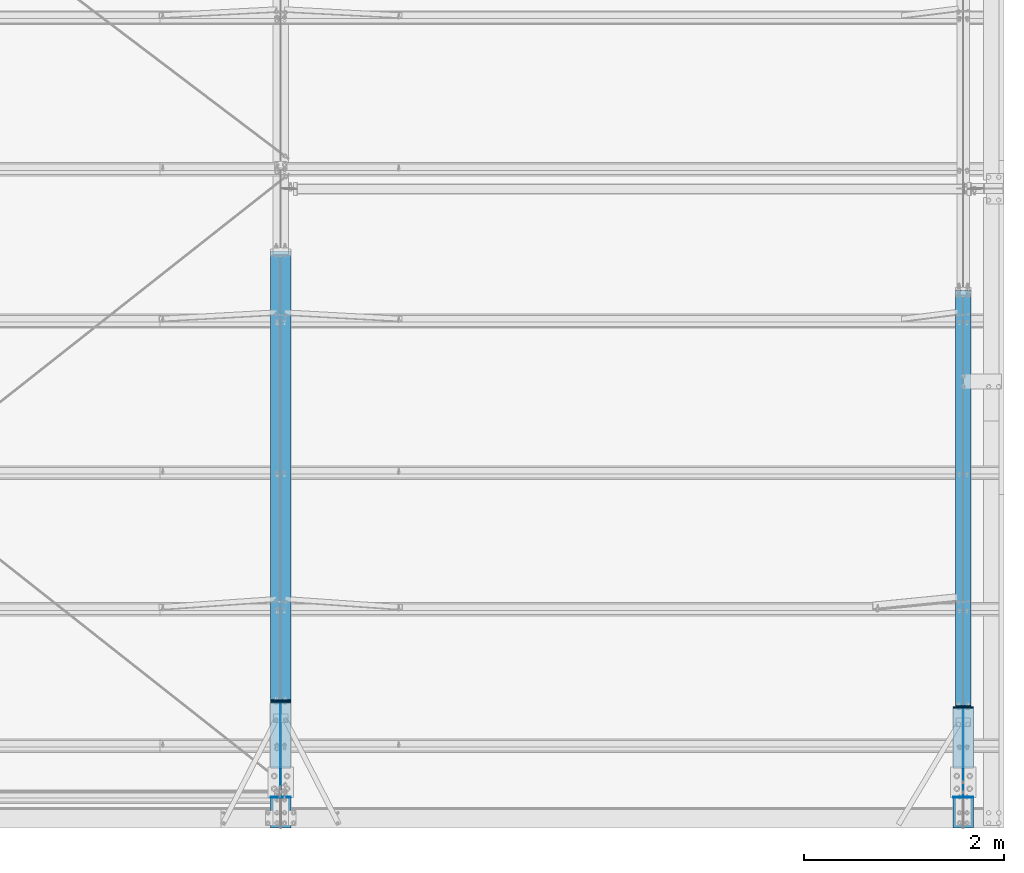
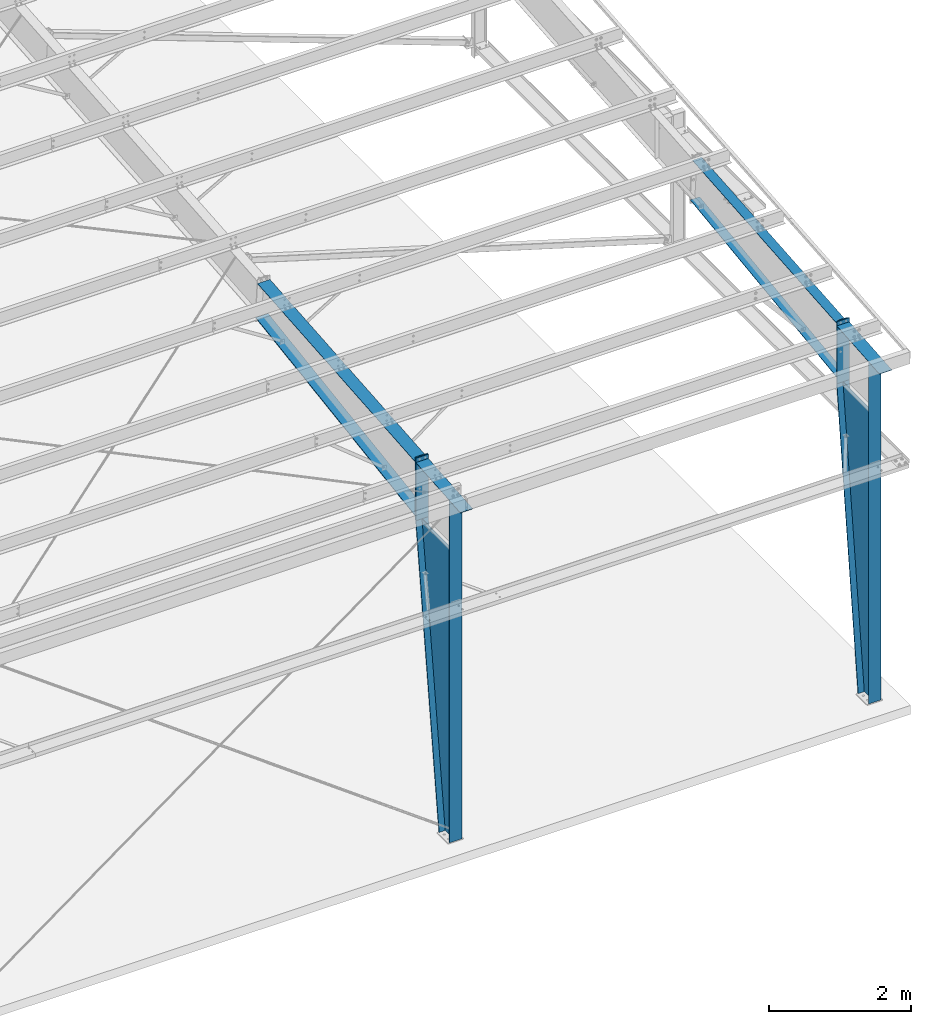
# One storey, part 58 of 185: 16 discrete accessories, 4 elements without a shape of their own.
"""IFC2X3 building model written with IfcOpenShell, lengths in millimetres."""

from ifc_helpers import new_model, si_unit, frame, origin_with_axes, origin_2d_with_axis, place, context, subcontext, project, spatial, rectangle, extrude, clip, halfspace, material, type_object, element, aggregate, save


model = new_model("IFC2X3")

# Units and contexts
model_context = context("Model", 3, precision=1e-05, world=origin_with_axes())
body_context = subcontext(model_context, "Body", "Model", "MODEL_VIEW")
ifc_project = project(units=[si_unit("LENGTHUNIT", "METRE", prefix="MILLI"), si_unit("AREAUNIT", "SQUARE_METRE"), si_unit("VOLUMEUNIT", "CUBIC_METRE"), si_unit("MASSUNIT", "GRAM", prefix="KILO"), si_unit("TIMEUNIT", "SECOND"), si_unit("PLANEANGLEUNIT", "RADIAN"), si_unit("SOLIDANGLEUNIT", "STERADIAN"), si_unit("THERMODYNAMICTEMPERATUREUNIT", "DEGREE_CELSIUS"), si_unit("LUMINOUSINTENSITYUNIT", "LUMEN")], contexts=[model_context])

# Site, building, storey
site_placement = place(None, origin_with_axes())
site = spatial("IfcSite", under=ifc_project, at=site_placement, Name="Undefined", CompositionType="ELEMENT")
building_placement = place(site_placement, origin_with_axes())
building = spatial("IfcBuilding", under=site, at=building_placement, Name="Undefined", CompositionType="ELEMENT")
storey_placement = place(building_placement, origin_with_axes())
storey = spatial("IfcBuildingStorey", under=building, at=storey_placement, Name="Undefined", CompositionType="ELEMENT", Elevation=0.0)

# Assembly, discrete accessory
assembly_1_placement = place(storey_placement, origin_with_axes())
assembly_1 = element("IfcElementAssembly", 1, at=assembly_1_placement, inside=storey, Name="Steel Assembly", AssemblyPlace="NOTDEFINED", PredefinedType="RIGID_FRAME")
ifc_material = material(Name="STEEL/55")
discrete_accessory_type_1 = type_object("IfcDiscreteAccessoryType", Name="Outside Flange")
discrete_accessory_1_placement = place(assembly_1_placement, frame((44551.6, 5324.06322384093, 6333.41238029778), z_axis=(1.0, 0.0, 0.0), x_axis=(0.0, -0.996545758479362, -0.0830454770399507)))
discrete_accessory_1 = element("IfcDiscreteAccessory", 2, at=discrete_accessory_1_placement, type_object=discrete_accessory_type_1, material=ifc_material, Name="Outside Flange", ObjectType="FL5/16\"X6\"", context=body_context, shape_type="SweptSolid", body=[
    extrude(rectangle(XDim=7.874, YDim=152.4, at=origin_2d_with_axis()), frame((4112.39146810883, 0.0, 0.0), z_axis=(-1.0, 0.0, 0.0), x_axis=(0.0, -1.0, 0.0)), (0.0, 0.0, 1.0), 4112.4),
])

assembly_2_placement = place(storey_placement, origin_with_axes())
assembly_2 = element("IfcElementAssembly", 3, at=assembly_2_placement, inside=storey, Name="Steel Assembly", AssemblyPlace="NOTDEFINED", PredefinedType="RIGID_FRAME")
discrete_accessory_2_placement = place(assembly_2_placement, frame((44551.6, 307.975000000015, 15.8749999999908), z_axis=(0.0, 0.0, 1.0), x_axis=(-1.0, 0.0, 0.0)))
discrete_accessory_2 = element("IfcDiscreteAccessory", 4, at=discrete_accessory_2_placement, type_object=discrete_accessory_type_1, material=ifc_material, Name="Outside Flange", ObjectType="FL1/4\"X8\"", context=body_context, shape_type="SweptSolid", body=[
    extrude(rectangle(XDim=6.35, YDim=203.2, at=origin_2d_with_axis()), frame((0.0, 0.0, 5895.24865466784), z_axis=(0.0, 0.0, -1.0), x_axis=(0.0, 1.0, 0.0)), (0.0, 0.0, 1.0), 5895.2),
])

assembly_3_placement = place(storey_placement, origin_with_axes())
assembly_3 = element("IfcElementAssembly", 5, at=assembly_3_placement, inside=storey, Name="Steel Assembly", AssemblyPlace="NOTDEFINED", PredefinedType="RIGID_FRAME")
discrete_accessory_3_placement = place(assembly_3_placement, frame((37719.0, 5725.77406224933, 6365.28254241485), z_axis=(1.0, 0.0, 0.0), x_axis=(0.0, -0.996545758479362, -0.0830454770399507)))
discrete_accessory_3 = element("IfcDiscreteAccessory", 6, at=discrete_accessory_3_placement, type_object=discrete_accessory_type_1, material=ifc_material, Name="Outside Flange", ObjectType="FL5/16\"X8\"", context=body_context, shape_type="SweptSolid", body=[
    extrude(rectangle(XDim=7.874, YDim=203.2, at=origin_2d_with_axis()), frame((4456.74478612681, 0.0, 0.0), z_axis=(-1.0, 0.0, 0.0), x_axis=(0.0, -1.0, 0.0)), (0.0, 0.0, 1.0), 4456.7),
])

assembly_4_placement = place(storey_placement, origin_with_axes())
assembly_4 = element("IfcElementAssembly", 7, at=assembly_4_placement, inside=storey, Name="Steel Assembly", AssemblyPlace="NOTDEFINED", PredefinedType="RIGID_FRAME")
discrete_accessory_4_placement = place(assembly_4_placement, frame((37719.0, 308.737, 15.875), z_axis=(0.0, 0.0, 1.0), x_axis=(-1.0, 0.0, 0.0)))
discrete_accessory_4 = element("IfcDiscreteAccessory", 8, at=discrete_accessory_4_placement, type_object=discrete_accessory_type_1, material=ifc_material, Name="Outside Flange", ObjectType="FL5/16\"X8\"", context=body_context, shape_type="SweptSolid", body=[
    extrude(rectangle(XDim=7.874, YDim=203.2, at=origin_2d_with_axis()), frame((0.0, 0.0, 5893.64290803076), z_axis=(0.0, 0.0, -1.0), x_axis=(0.0, 1.0, 0.0)), (0.0, 0.0, 1.0), 5893.6),
])

# Discrete accessory
discrete_accessory_type_2 = type_object("IfcDiscreteAccessoryType", Name="Inside Flange")
discrete_accessory_5_placement = place(assembly_1_placement, frame((44551.5999999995, 1226.18207892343, 5066.18451539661), z_axis=(-1.0, 0.0, 0.0), x_axis=(0.0, 0.991385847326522, 0.130973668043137)))
discrete_accessory_5 = element("IfcDiscreteAccessory", 9, at=discrete_accessory_5_placement, type_object=discrete_accessory_type_2, material=ifc_material, Name="Inside Flange", ObjectType="PL3/8\"X6\"", context=body_context, shape_type="SweptSolid", body=[
    extrude(rectangle(XDim=9.652, YDim=152.4, at=origin_2d_with_axis()), frame((4193.60346189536, 9.09494701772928e-13, 0.0), z_axis=(-1.0, 0.0, 0.0), x_axis=(0.0, -1.0, 0.0)), (0.0, 0.0, 1.0), 4193.6),
])

discrete_accessory_6_placement = place(assembly_2_placement, frame((44551.5999999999, 603.352772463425, 16.6387445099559), z_axis=(-1.0, 0.0, 0.0), x_axis=(0.0, 0.120274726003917, 0.992740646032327)))
discrete_accessory_6 = element("IfcDiscreteAccessory", 10, at=discrete_accessory_6_placement, type_object=discrete_accessory_type_2, material=ifc_material, Name="Inside Flange", ObjectType="FL1/2\"X8\"", context=body_context, shape_type="SweptSolid", body=[
    extrude(rectangle(XDim=12.7, YDim=203.2, at=origin_2d_with_axis()), frame((5014.13368096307, -6.95850832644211e-14, 0.0), z_axis=(-1.0, 0.0, 0.0), x_axis=(0.0, -1.0, 0.0)), (0.0, 0.0, 1.0), 5014.1),
])

discrete_accessory_7_placement = place(assembly_3_placement, frame((37718.9999999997, 1285.04641844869, 5067.3440143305), z_axis=(-1.0, 0.0, 0.0), x_axis=(0.0, 0.988758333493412, 0.149522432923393)))
discrete_accessory_7 = element("IfcDiscreteAccessory", 11, at=discrete_accessory_7_placement, type_object=discrete_accessory_type_2, material=ifc_material, Name="Inside Flange", ObjectType="FL1/2\"X8\"", context=body_context, shape_type="SweptSolid", body=[
    extrude(rectangle(XDim=12.7, YDim=203.2, at=origin_2d_with_axis()), frame((4542.9272168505, 0.0, 0.0), z_axis=(-1.0, 0.0, 0.0), x_axis=(0.0, -1.0, 0.0)), (0.0, 0.0, 1.0), 4542.9),
])

discrete_accessory_8_placement = place(assembly_4_placement, frame((37718.9999999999, 603.414073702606, 16.7042436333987), z_axis=(-1.0, 0.0, 0.0), x_axis=(0.0, 0.130589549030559, 0.991436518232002)))
discrete_accessory_8 = element("IfcDiscreteAccessory", 12, at=discrete_accessory_8_placement, type_object=discrete_accessory_type_2, material=ifc_material, Name="Inside Flange", ObjectType="FL1/2\"X8\"", context=body_context, shape_type="SweptSolid", body=[
    extrude(rectangle(XDim=12.7, YDim=203.2, at=origin_2d_with_axis()), frame((5018.43796554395, 1.39289634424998e-13, 0.0), z_axis=(-1.0, 0.0, 0.0), x_axis=(0.0, -1.0, 0.0)), (0.0, 0.0, 1.0), 5018.4),
])

discrete_accessory_type_3 = type_object("IfcDiscreteAccessoryType", Name="Web")
discrete_accessory_9_placement = place(assembly_2_placement, frame((44551.6, 755.650000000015, 15.8749999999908), z_axis=(0.0, 0.0, 1.0), x_axis=(0.0, -1.0, 0.0)))
discrete_accessory_9 = element("IfcDiscreteAccessory", 13, at=discrete_accessory_9_placement, type_object=discrete_accessory_type_3, material=ifc_material, Name="Web", ObjectType="PL3/16\"X35\"", context=body_context, shape_type="Clipping", body=[
    clip(extrude(rectangle(XDim=4.7625, YDim=889.0, at=origin_2d_with_axis()), frame((0.0, 0.0, 4978.67398109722), z_axis=(0.0, 0.0, -1.0), x_axis=(0.0, 1.0, 0.0)), (0.0, 0.0, 1.0), 4978.7), halfspace(frame((-444.5, -2.38124999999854, 4979.48940958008), z_axis=(-0.992740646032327, 0.0, -0.120274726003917), x_axis=(0.120274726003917, 0.0, -0.992740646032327)), False)),
])

discrete_accessory_10_placement = place(assembly_4_placement, frame((37719.0, 782.574, 15.875), z_axis=(0.0, 0.0, 1.0), x_axis=(0.0, -1.0, 0.0)))
discrete_accessory_10 = element("IfcDiscreteAccessory", 14, at=discrete_accessory_10_placement, type_object=discrete_accessory_type_3, material=ifc_material, Name="Web", ObjectType="PL3/16\"X37\"", context=body_context, shape_type="Clipping", body=[
    clip(extrude(rectangle(XDim=4.7625, YDim=939.8, at=origin_2d_with_axis()), frame((0.0, 0.0, 4977.1211511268), z_axis=(0.0, 0.0, -1.0), x_axis=(0.0, 1.0, 0.0)), (0.0, 0.0, 1.0), 4977.1), halfspace(frame((-469.9, -2.38124999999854, 4977.12115112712), z_axis=(-0.991436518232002, 0.0, -0.130589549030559), x_axis=(0.130589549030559, 0.0, -0.991436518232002)), False)),
])

discrete_accessory_type_4 = type_object("IfcDiscreteAccessoryType", Name="Rafter Haunch Plate")
discrete_accessory_11_placement = place(assembly_1_placement, frame((44551.6, 1219.20000000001, 6061.34898359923), z_axis=(1.0, 0.0, 0.0), x_axis=(0.0, 0.0, -1.0)))
discrete_accessory_11 = element("IfcDiscreteAccessory", 15, at=discrete_accessory_11_placement, type_object=discrete_accessory_type_4, material=ifc_material, Name="Rafter Haunch Plate", ObjectType="FL1/2\"X6\"", context=body_context, shape_type="SweptSolid", body=[
    extrude(rectangle(XDim=12.7, YDim=152.4, at=origin_2d_with_axis()), frame((1066.80000250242, 0.0, 0.0), z_axis=(-1.0, 0.0, 0.0), x_axis=(0.0, -1.0, 0.0)), (0.0, 0.0, 1.0), 1066.8),
])

aggregate(assembly_1, [discrete_accessory_1, discrete_accessory_5, discrete_accessory_11])

discrete_accessory_12_placement = place(assembly_3_placement, frame((37719.0, 1276.223, 6069.32115112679), z_axis=(1.0, 0.0, 0.0), x_axis=(0.0, 0.0, -1.0)))
discrete_accessory_12 = element("IfcDiscreteAccessory", 16, at=discrete_accessory_12_placement, type_object=discrete_accessory_type_4, material=ifc_material, Name="Rafter Haunch Plate", ObjectType="PL5/8\"X8\"", context=body_context, shape_type="SweptSolid", body=[
    extrude(rectangle(XDim=15.748, YDim=203.2, at=origin_2d_with_axis()), frame((1076.32500219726, 0.0, 0.0), z_axis=(-1.0, 0.0, 0.0), x_axis=(0.0, -1.0, 0.0)), (0.0, 0.0, 1.0), 1076.3),
])

aggregate(assembly_3, [discrete_accessory_3, discrete_accessory_7, discrete_accessory_12])

discrete_accessory_type_5 = type_object("IfcDiscreteAccessoryType", Name="Column Connection Pla")
discrete_accessory_13_placement = place(assembly_2_placement, frame((44551.6, 1206.50000000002, 6061.34898359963), z_axis=(1.0, 0.0, 0.0), x_axis=(0.0, 0.0, -1.0)))
discrete_accessory_13 = element("IfcDiscreteAccessory", 17, at=discrete_accessory_13_placement, type_object=discrete_accessory_type_5, material=ifc_material, Name="Column Connection Pla", ObjectType="FL1/2\"X8\"", context=body_context, shape_type="SweptSolid", body=[
    extrude(rectangle(XDim=12.7, YDim=203.2, at=origin_2d_with_axis()), frame((1066.80000250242, 0.0, 0.0), z_axis=(-1.0, 0.0, 0.0), x_axis=(0.0, -1.0, 0.0)), (0.0, 0.0, 1.0), 1066.8),
])

discrete_accessory_14_placement = place(assembly_4_placement, frame((37719.0, 1260.4115, 6069.32115222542), z_axis=(1.0, 0.0, 0.0), x_axis=(0.0, 0.0, -1.0)))
discrete_accessory_14 = element("IfcDiscreteAccessory", 18, at=discrete_accessory_14_placement, type_object=discrete_accessory_type_5, material=ifc_material, Name="Column Connection Pla", ObjectType="FL5/8\"X8\"", context=body_context, shape_type="SweptSolid", body=[
    extrude(rectangle(XDim=15.875, YDim=203.2, at=origin_2d_with_axis()), frame((1076.32500219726, 0.0, 0.0), z_axis=(-1.0, 0.0, 0.0), x_axis=(0.0, -1.0, 0.0)), (0.0, 0.0, 1.0), 1076.3),
])

discrete_accessory_type_6 = type_object("IfcDiscreteAccessoryType", Name="Cap Plate")
discrete_accessory_15_placement = place(assembly_2_placement, frame((44551.6, 0.26366939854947, 5888.93163235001), z_axis=(-1.0, 0.0, 0.0), x_axis=(0.0, 0.996545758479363, 0.0830454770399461)))
discrete_accessory_15 = element("IfcDiscreteAccessory", 19, at=discrete_accessory_15_placement, type_object=discrete_accessory_type_6, material=ifc_material, Name="Cap Plate", ObjectType="FL1/4\"X8\"", context=body_context, shape_type="SweptSolid", body=[
    extrude(rectangle(XDim=6.35, YDim=203.2, at=origin_2d_with_axis()), frame((1203.78081114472, 0.0, 0.0), z_axis=(-1.0, 0.0, 0.0), x_axis=(0.0, -1.0, 0.0)), (0.0, 0.0, 1.0), 1203.8),
])

aggregate(assembly_2, [discrete_accessory_13, discrete_accessory_15, discrete_accessory_9, discrete_accessory_6, discrete_accessory_2])

discrete_accessory_16_placement = place(assembly_4_placement, frame((37719.0, 0.330114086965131, 5888.13429608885), z_axis=(-1.0, 0.0, 0.0), x_axis=(0.0, 0.996545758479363, 0.0830454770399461)))
discrete_accessory_16 = element("IfcDiscreteAccessory", 20, at=discrete_accessory_16_placement, type_object=discrete_accessory_type_6, material=ifc_material, Name="Cap Plate", ObjectType="FL5/16\"X8\"", context=body_context, shape_type="SweptSolid", body=[
    extrude(rectangle(XDim=7.9502, YDim=203.2, at=origin_2d_with_axis()), frame((1256.15282737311, 0.0, 0.0), z_axis=(-1.0, 0.0, 0.0), x_axis=(0.0, -1.0, 0.0)), (0.0, 0.0, 1.0), 1256.2),
])

aggregate(assembly_4, [discrete_accessory_14, discrete_accessory_16, discrete_accessory_10, discrete_accessory_8, discrete_accessory_4])

save(model, "model.ifc")
